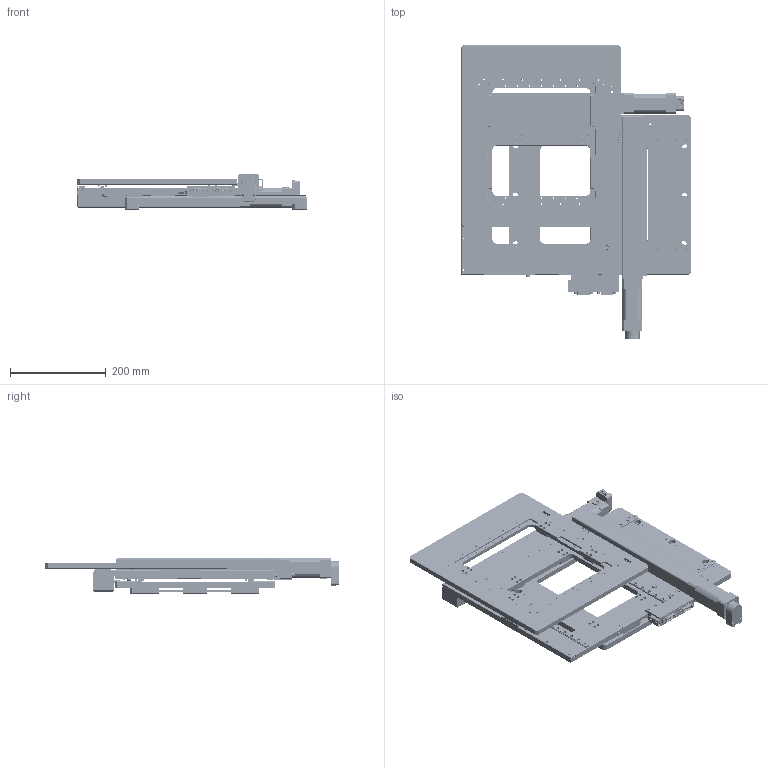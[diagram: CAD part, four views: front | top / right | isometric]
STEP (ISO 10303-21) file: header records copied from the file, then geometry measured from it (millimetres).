
FILE_DESCRIPTION(/* description */ (''),/* implementation_level */ '2;1');
FILE_NAME(/* name */ 'U:\KONSTRUKTORIAI\DOKUMENTACIJA\8\8MTF-200-B43-MEn4-LEn1\STEP\8MTF-200-B43-MEn4-LEn1 X-100 Y+100.stp',/* time_stamp */ '2021-05-06T16:01:49+03:00',/* author */ ('dsgn32'),/* organization */ (''),/* preprocessor_version */ 'ST-DEVELOPER v15.2',/* originating_system */ 'Autodesk Inventor 2014',/* authorisation */ '');
FILE_SCHEMA (('AUTOMOTIVE_DESIGN { 1 0 10303 214 3 1 1 }'));
Products named in the file (1): 8MTF-200-B43-MEn4-LEn1 X+100 Y-100
Bounding box: 480 x 613.89 x 74 mm (x, y, z)
Volume: 4782420 mm3; surface area: 911543.9 mm2
Topology: 5 solids, 54 shells, 6776 faces, 16804 edges, 10739 vertices
Faces by surface type: plane 3777, cylinder 2015, bspline 448, cone 382, torus 118, sphere 36
Full cylindrical faces by diameter (mm): 0.61 x52, 0.813 x10, 1.143 x52, 1.321 x52, 1.567 x34, 1.981 x16, 2.013 x9, 2.459 x152, 2.5 x32, 2.693 x8, 2.9 x4, 3 x8, 3.048 x4, 3.1 x2, 3.175 x4, 3.242 x70, 3.302 x12, 3.4 x57, 3.5 x81, 4 x24, 4.2 x4, 4.5 x22, 4.917 x2, 5 x6, 6 x122, 6.35 x2, 6.5 x8, 7 x21, 8 x22, 9 x1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
Entity records: 217304 total; most frequent: CARTESIAN_POINT 57219, DIRECTION 30958, ORIENTED_EDGE 30276, EDGE_CURVE 15117, AXIS2_PLACEMENT_3D 10860, VERTEX_POINT 10367, LINE 9238, VECTOR 9238
